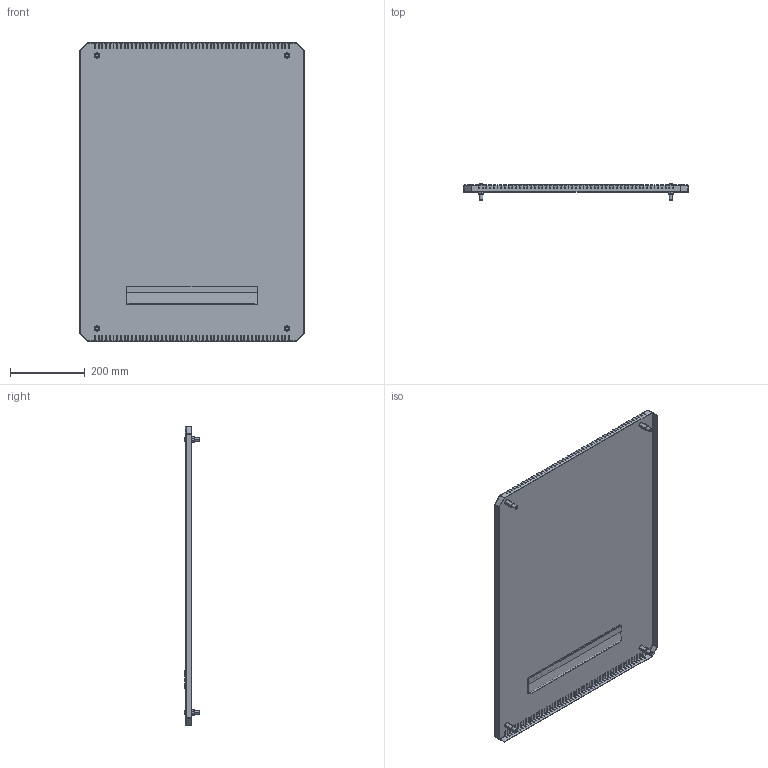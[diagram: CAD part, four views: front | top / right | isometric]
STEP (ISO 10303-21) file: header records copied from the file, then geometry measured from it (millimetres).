
FILE_DESCRIPTION (( 'STEP AP203' ), '1' );
FILE_NAME ('R 60.80 IK Ïàíåëü òåëåêîììóíèêàöèîííàÿ ïîòîëî÷íàÿ ñ ùåò. ââîäîì.STEP', '2013-01-12T09:22:50', ( 'System' ), ( '' ), 'SwSTEP 2.0', 'SolidWorks 2012', '' );
FILE_SCHEMA (( 'CONFIG_CONTROL_DESIGN' ));
Length unit declared in the file: millimetre
Products named in the file (1): R 60.80 IK Ïàíåëü òåëåêîììóíèêàöèîííàÿ ïîòîëî÷íàÿ ñ ùåò. ââîäîì
Bounding box: 600 x 42.72 x 800 mm (x, y, z)
Volume: 737645.4 mm3; surface area: 1084893.4 mm2
Topology: 6 solids, 10 shells, 1384 faces, 3708 edges, 2136 vertices
Faces by surface type: plane 1016, cylinder 272, cone 56, bspline 16, torus 16, sphere 8
Entity records: 43111 total; most frequent: CARTESIAN_POINT 8609, ORIENTED_EDGE 7384, DIRECTION 6960, EDGE_CURVE 3692, VECTOR 2926, LINE 2926, VERTEX_POINT 2136, AXIS2_PLACEMENT_3D 2017
